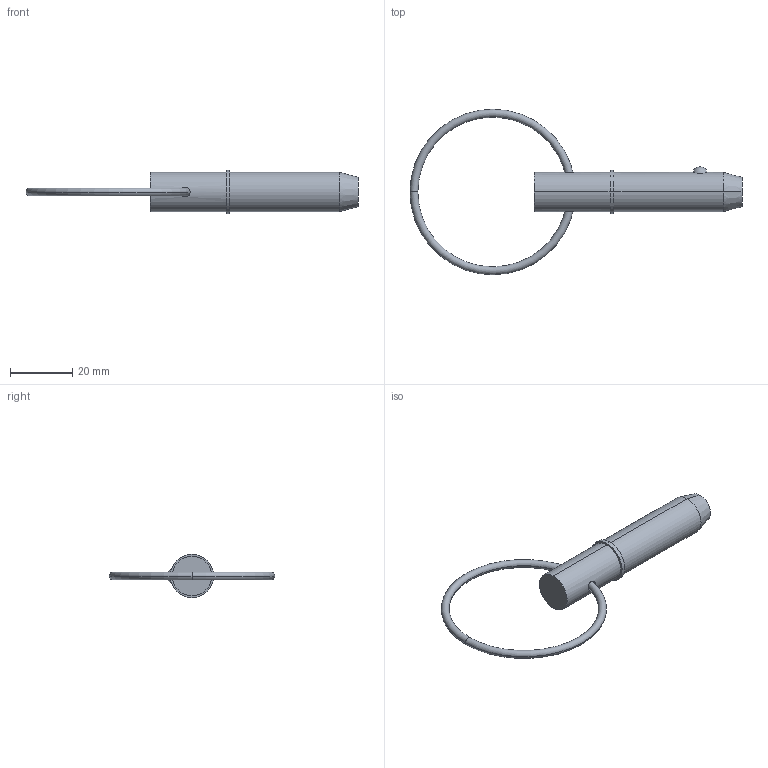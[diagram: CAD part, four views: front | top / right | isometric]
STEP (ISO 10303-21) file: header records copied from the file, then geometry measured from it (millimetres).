
FILE_DESCRIPTION (( 'STEP AP203' ), '1' );
FILE_NAME ('33016.W5010.step', '2024-11-07T11:08:31', ( '' ), ( '' ), 'SwSTEP 2.0', 'SolidWorks 2019', '' );
FILE_SCHEMA (( 'CONFIG_CONTROL_DESIGN' ));
Length unit declared in the file: millimetre
Products named in the file (3): Part2_33016.W5010; 33016.W5010; Part1_33016.W5010
Assembly tree (2 placements, depth 2):
  33016.W5010
    Part1_33016.W5010
    Part2_33016.W5010
Bounding box: 107.03 x 53.34 x 13.97 mm (x, y, z)
Volume: 9074.6 mm3; surface area: 4301.8 mm2
Topology: 2 solids, 2 shells, 22 faces, 43 edges, 26 vertices
Faces by surface type: torus 8, cylinder 6, plane 4, sphere 2, cone 2
Entity records: 1039 total; most frequent: CARTESIAN_POINT 262, DIRECTION 120, ORIENTED_EDGE 86, AXIS2_PLACEMENT_3D 56, EDGE_CURVE 43, CIRCLE 29, EDGE_LOOP 27, VERTEX_POINT 26
